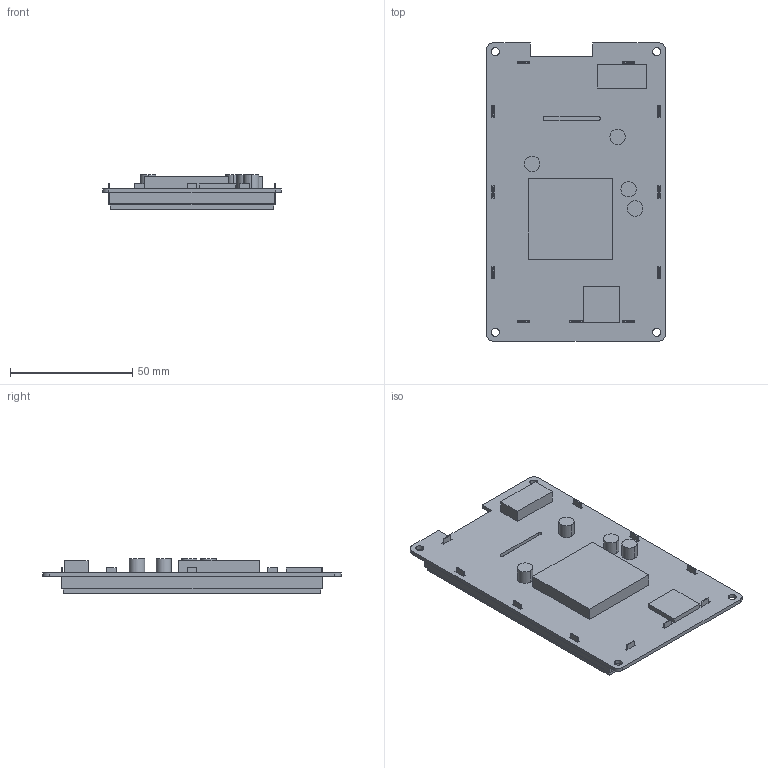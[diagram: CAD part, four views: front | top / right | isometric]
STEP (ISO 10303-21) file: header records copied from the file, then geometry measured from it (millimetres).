
FILE_DESCRIPTION((''),'2;1');
FILE_NAME('3D-DMG80480T043-01WN','2024-07-29T',('Administrator'),(''),'PRO/ENGINEER BY PARAMETRIC TECHNOLOGY CORPORATION, 2011310','PRO/ENGINEER BY PARAMETRIC TECHNOLOGY CORPORATION, 2011310','');
FILE_SCHEMA(('CONFIG_CONTROL_DESIGN','SHAPE_APPEARANCE_LAYERS_GROUPS'));
Products named in the file (1): 3D-DMG80480T043-01WN
Bounding box: 73.15 x 121.92 x 14.2 mm (x, y, z)
Volume: 55851.5 mm3; surface area: 51220.2 mm2
Topology: 1 solids, 2 shells, 220 faces, 12849 edges, 14137 vertices
Faces by surface type: plane 198, cylinder 22
Entity records: 155577 total; most frequent: PRESENTATION_STYLE_ASSIGNMENT 18033, STYLED_ITEM 18033, DIRECTION 17007, CURVE_STYLE 15058, CARTESIAN_POINT 13487, TRIMMED_CURVE 12203, COMPOSITE_CURVE_SEGMENT 12195, VECTOR 9135
